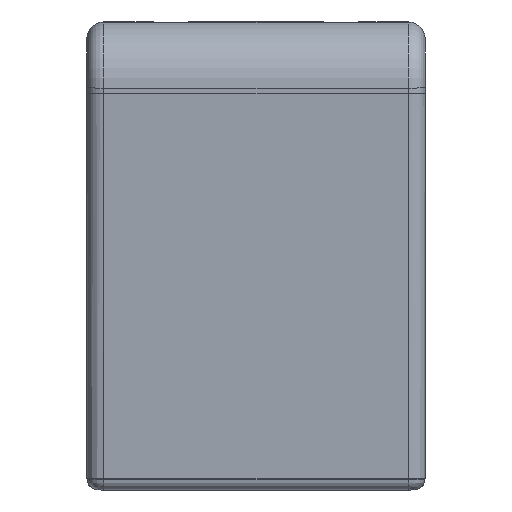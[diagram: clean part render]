
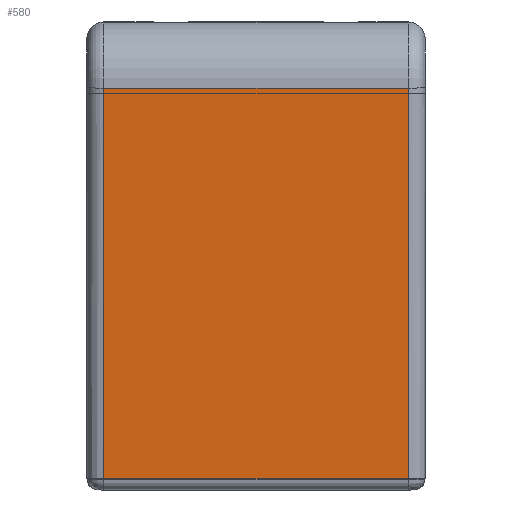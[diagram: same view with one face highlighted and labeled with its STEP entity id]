
A CAD part, left-side view. The second image highlights one B-rep face of the part: STEP entity #580.
In plain terms, the highlighted planar face has unit normal (-0.998, 0, -0.067).
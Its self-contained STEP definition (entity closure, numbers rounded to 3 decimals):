
#16 = EDGE_LOOP ( 'NONE', ( #1553, #1552, #1551, #1550 ) ) ;
#385 = EDGE_CURVE ( 'NONE', #5048, #5059, #2280, .T. ) ;
#386 = EDGE_CURVE ( 'NONE', #5059, #5062, #2282, .T. ) ;
#387 = EDGE_CURVE ( 'NONE', #5062, #5074, #2284, .T. ) ;
#388 = EDGE_CURVE ( 'NONE', #5048, #5074, #2286, .T. ) ;
#580 = ADVANCED_FACE ( 'NONE', ( #2463 ), #3912, .T. ) ;
#742 = AXIS2_PLACEMENT_3D ( 'NONE', #3914, #3916, #3918 ) ;
#1314 = CARTESIAN_POINT ( 'NONE',  ( -467.388, 13.5, 28.632 ) ) ;
#1325 = CARTESIAN_POINT ( 'NONE',  ( -465.063, 13.5, -6.067 ) ) ;
#1328 = CARTESIAN_POINT ( 'NONE',  ( -465.063, -13.5, -6.067 ) ) ;
#1340 = CARTESIAN_POINT ( 'NONE',  ( -467.388, -13.5, 28.632 ) ) ;
#1409 = CARTESIAN_POINT ( 'NONE',  ( -467.388, 15., 28.632 ) ) ;
#1414 = DIRECTION ( 'NONE',  ( -0.067, 0., 0.998 ) ) ;
#1419 = CARTESIAN_POINT ( 'NONE',  ( -467.388, -13.5, 28.632 ) ) ;
#1423 = DIRECTION ( 'NONE',  ( 0., -1., 0. ) ) ;
#1429 = CARTESIAN_POINT ( 'NONE',  ( -465.063, 15., -6.067 ) ) ;
#1432 = DIRECTION ( 'NONE',  ( 0., -1., 0. ) ) ;
#1550 = ORIENTED_EDGE ( 'NONE', *, *, #388, .F. ) ;
#1551 = ORIENTED_EDGE ( 'NONE', *, *, #387, .T. ) ;
#1552 = ORIENTED_EDGE ( 'NONE', *, *, #386, .T. ) ;
#1553 = ORIENTED_EDGE ( 'NONE', *, *, #385, .T. ) ;
#2280 = LINE ( 'NONE', #2573, #2281 ) ;
#2281 = VECTOR ( 'NONE', #2557, 1000. ) ;
#2282 = LINE ( 'NONE', #1429, #2283 ) ;
#2283 = VECTOR ( 'NONE', #1423, 1000. ) ;
#2284 = LINE ( 'NONE', #1419, #2285 ) ;
#2285 = VECTOR ( 'NONE', #1414, 1000. ) ;
#2286 = LINE ( 'NONE', #1409, #2287 ) ;
#2287 = VECTOR ( 'NONE', #1432, 1000. ) ;
#2463 = FACE_OUTER_BOUND ( 'NONE', #16, .T. ) ;
#2557 = DIRECTION ( 'NONE',  ( 0.067, 0., -0.998 ) ) ;
#2573 = CARTESIAN_POINT ( 'NONE',  ( -465., 13.5, -7. ) ) ;
#3912 = PLANE ( 'NONE',  #742 ) ;
#3914 = CARTESIAN_POINT ( 'NONE',  ( -465., 15., -7. ) ) ;
#3916 = DIRECTION ( 'NONE',  ( -0.998, 0., -0.067 ) ) ;
#3918 = DIRECTION ( 'NONE',  ( -0.067, 0., 0.998 ) ) ;
#5048 = VERTEX_POINT ( 'NONE', #1314 ) ;
#5059 = VERTEX_POINT ( 'NONE', #1325 ) ;
#5062 = VERTEX_POINT ( 'NONE', #1328 ) ;
#5074 = VERTEX_POINT ( 'NONE', #1340 ) ;
